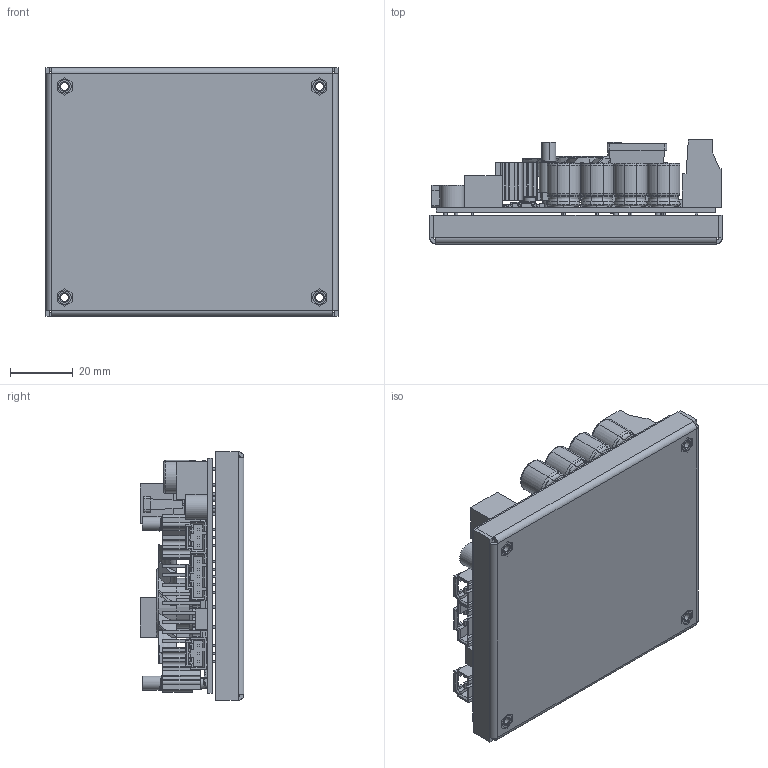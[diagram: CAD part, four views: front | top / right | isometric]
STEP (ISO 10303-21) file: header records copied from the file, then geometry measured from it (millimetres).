
FILE_DESCRIPTION(/* description */ ('Alibre Inc.'),/* implementation_level */ '2;1');
FILE_NAME(/* name */ 'export0',/* time_stamp */ '2018-05-24T13:04:40-06:00',/* author */ (''),/* organization */ (''),/* preprocessor_version */ 'ST-DEVELOPER v17',/* originating_system */ 'Alibre',/* authorisation */ '');
FILE_SCHEMA (('CONFIG_CONTROL_DESIGN'));
Length unit declared in the file: centimetre
Products named in the file (219): ID_1; ID_2; ID_3; ID_4; ID_5; ID_6; ID_7; ID_8; ID_9; ID_10; ID_11; ID_12; ID_13; ID_14; ID_15; ID_16; ID_17; ID_18; ID_19; ID_20; ID_21; ID_22; ID_23; ID_24; ID_25; ID_26; ID_27; ID_28; ID_29; ID_30; ID_31; ID_32; ID_33; ID_34; ID_35; ID_36; ID_37; ID_38; ID_39; ID_40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
Bounding box: 93.26 x 33.08 x 79.29 mm (x, y, z)
Volume: 52288.7 mm3; surface area: 74478.6 mm2
Topology: 251 solids, 251 shells, 5257 faces, 13563 edges, 8946 vertices
Faces by surface type: plane 3557, bspline 836, cylinder 808, cone 54, torus 2
Full cylindrical faces by diameter (mm): 0.381 x4, 0.813 x2, 0.965 x11, 1 x10, 1.067 x10, 1.5 x4, 1.575 x4, 1.778 x4, 3.175 x6, 3.556 x1, 4.064 x2, 4.22 x4, 8 x1
Entity records: 100528 total; most frequent: CARTESIAN_POINT 20651, ORIENTED_EDGE 11694, DIRECTION 10052, EDGE_CURVE 5847, VECTOR 4194, LINE 4194, VERTEX_POINT 3849, AXIS2_PLACEMENT_3D 3637
